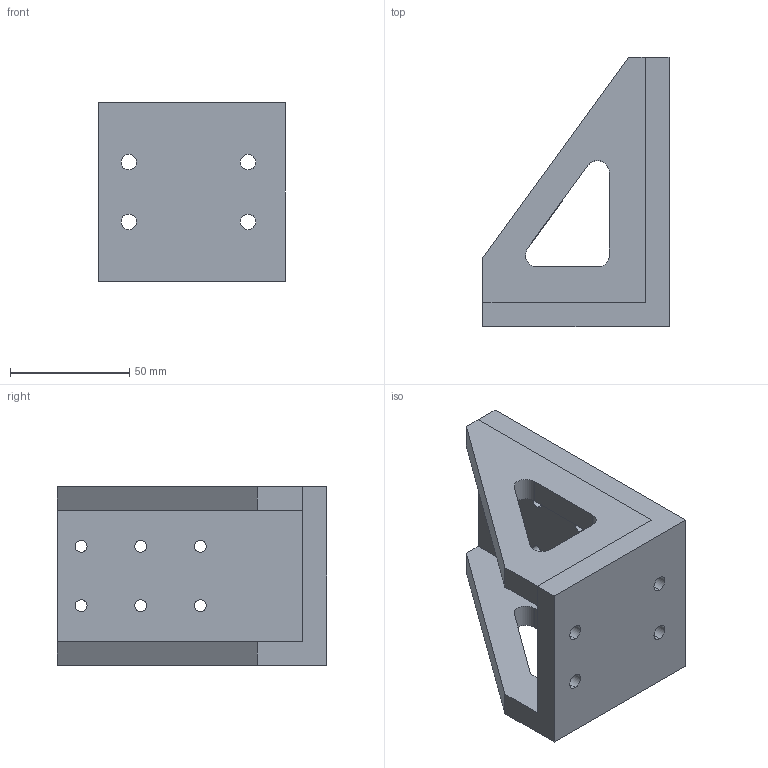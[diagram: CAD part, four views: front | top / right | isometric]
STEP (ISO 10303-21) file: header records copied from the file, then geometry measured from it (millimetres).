
FILE_DESCRIPTION (( 'STEP AP203' ), '1' );
FILE_NAME ('PJK15.STEP', '2022-04-10T00:53:37', ( '' ), ( '' ), 'SwSTEP 2.0', 'SolidWorks 2017', '' );
FILE_SCHEMA (( 'CONFIG_CONTROL_DESIGN' ));
Length unit declared in the file: millimetre
Products named in the file (1): PJK15
Bounding box: 78 x 113 x 75 mm (x, y, z)
Volume: 200011.2 mm3; surface area: 52830.6 mm2
Topology: 2 solids, 2 shells, 65 faces, 173 edges, 114 vertices
Faces by surface type: cylinder 36, plane 29
Entity records: 2174 total; most frequent: DIRECTION 381, CARTESIAN_POINT 353, ORIENTED_EDGE 346, EDGE_CURVE 173, AXIS2_PLACEMENT_3D 142, VERTEX_POINT 114, VECTOR 97, LINE 97
